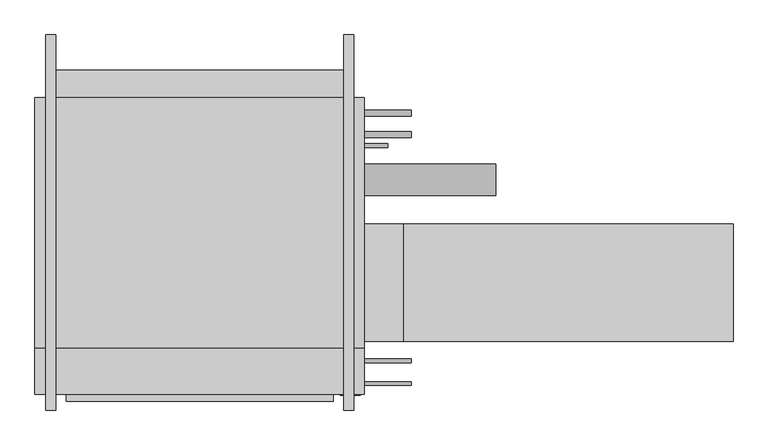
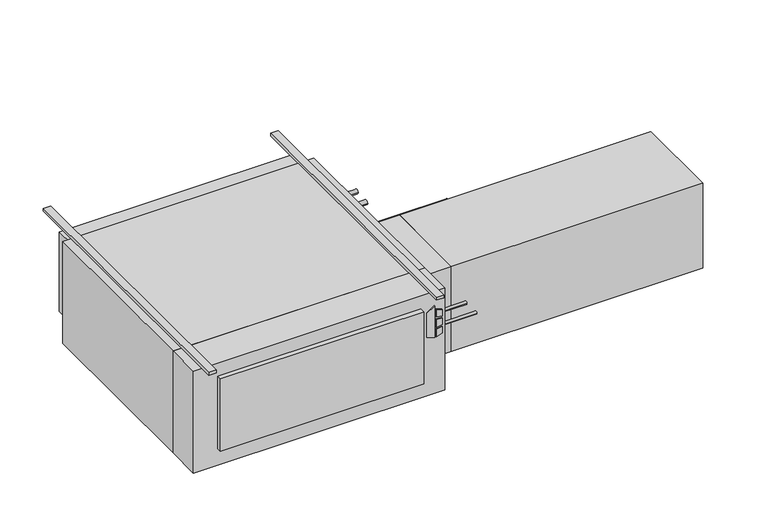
"""IFC4 building model written with IfcOpenShell, lengths in millimetres: proxy geometry."""

from ifc_helpers import new_model, si_unit, point, frame, frame_2d, origin, origin_with_axes, place, context, project, spatial, polyline, circle_curve, trimmed, segment, composite_curve, outline, extrude, source, transform, mapped, element, save


def mechanical_equipment_b82c571a(model_context):
    return source(origin(), model_context, "Body", "SweptSolid", [
        extrude(outline(polyline([(-193.2519297, 608.0868862), (-203.2, 640.2602728), (-61.0290756, 640.2602728), (-84.0510817, 608.0868862), (-193.2519297, 608.0868862)])), frame((0.0, -797.052, 0.0), z_axis=(0.0, 1.0, 0.0), x_axis=(0.0, 0.0, 1.0)), (0.0, 0.0, 1.0), 3.175),
        extrude(outline(polyline([(-114.2526443, 647.0186058), (-117.4550368, 673.1), (-88.2261958, 673.1), (-80.1617807, 647.0186058), (-114.2526443, 647.0186058)])), frame((0.0, -797.052, 0.0), z_axis=(0.0, 1.0, 0.0), x_axis=(0.0, 0.0, 1.0)), (0.0, 0.0, 1.0), 3.175),
        extrude(outline(polyline([(-166.1161712, 673.1), (-169.7816721, 647.0186058), (-203.2, 647.0186058), (-194.5657628, 673.1), (-166.1161712, 673.1)])), frame((0.0, -797.052, 0.0), z_axis=(0.0, 1.0, 0.0), x_axis=(0.0, 0.0, 1.0)), (0.0, 0.0, 1.0), 3.175),
        extrude(outline(polyline([(-126.8010097, 673.1), (-124.5191834, 647.0186058), (-160.4567319, 647.0186058), (-157.7154669, 673.1), (-126.8010097, 673.1)])), frame((0.0, -797.052, 0.0), z_axis=(0.0, 1.0, 0.0), x_axis=(0.0, 0.0, 1.0)), (0.0, 0.0, 1.0), 3.175),
        extrude(outline(polyline([(685.8, -793.877), (-381.0, -793.877), (-381.0, -644.525), (685.8, -644.525), (685.8, -793.877)])), frame((0.0, 0.0, -457.2), z_axis=(0.0, 0.0, 1.0), x_axis=(1.0, 0.0, 0.0)), (0.0, 0.0, 1.0), 457.2),
        extrude(outline(polyline([(584.2, -816.229), (-279.4, -816.229), (-279.4, -793.877), (584.2, -793.877), (584.2, -816.229)])), frame((0.0, 0.0, -381.0), z_axis=(0.0, 0.0, 1.0), x_axis=(1.0, 0.0, 0.0)), (0.0, 0.0, 1.0), 323.85),
        extrude(outline(polyline([(1879.6, -241.3), (1879.6, -622.3), (812.8, -622.3), (812.8, -241.3), (1879.6, -241.3)])), frame((0.0, 0.0, -431.8), z_axis=(0.0, 0.0, 1.0), x_axis=(1.0, 0.0, 0.0)), (0.0, 0.0, 1.0), 381.0),
        extrude(outline(polyline([(812.8, -241.3), (812.8, -622.3), (685.8, -622.3), (685.8, -241.3), (812.8, -241.3)])), frame((0.0, 0.0, -431.8), z_axis=(0.0, 0.0, 1.0), x_axis=(1.0, 0.0, 0.0)), (0.0, 0.0, 1.0), 381.0),
        extrude(outline(composite_curve([segment(trimmed(circle_curve(frame_2d((-758.825, -184.15)), 6.35), [point((-752.475, -184.15))], [point((-765.175, -184.15))], False, "CARTESIAN"), True, "CONTINUOUS"), segment(trimmed(circle_curve(frame_2d((-758.825, -184.15)), 6.35), [point((-765.175, -184.15))], [point((-752.475, -184.15))], False, "CARTESIAN"), True, "CONTINUOUS")], self_intersect=False)), frame((685.8, 0.0, 0.0), z_axis=(1.0, 0.0, 0.0), x_axis=(0.0, 1.0, 0.0)), (0.0, 0.0, 1.0), 152.4),
        extrude(outline(composite_curve([segment(trimmed(circle_curve(frame_2d((-685.8, -184.15)), 6.35), [point((-679.45, -184.15))], [point((-692.15, -184.15))], False, "CARTESIAN"), True, "CONTINUOUS"), segment(trimmed(circle_curve(frame_2d((-685.8, -184.15)), 6.35), [point((-692.15, -184.15))], [point((-679.45, -184.15))], False, "CARTESIAN"), True, "CONTINUOUS")], self_intersect=False)), frame((685.8, 0.0, 0.0), z_axis=(1.0, 0.0, 0.0), x_axis=(0.0, 1.0, 0.0)), (0.0, 0.0, 1.0), 152.4),
        extrude(outline(composite_curve([segment(trimmed(circle_curve(frame_2d((117.475, -171.45)), 9.525), [point((127.0, -171.45))], [point((107.95, -171.45))], False, "CARTESIAN"), True, "CONTINUOUS"), segment(trimmed(circle_curve(frame_2d((117.475, -171.45)), 9.525), [point((107.95, -171.45))], [point((127.0, -171.45))], False, "CARTESIAN"), True, "CONTINUOUS")], self_intersect=False)), frame((685.8, 0.0, 0.0), z_axis=(1.0, 0.0, 0.0), x_axis=(0.0, 1.0, 0.0)), (0.0, 0.0, 1.0), 152.4),
        extrude(outline(composite_curve([segment(trimmed(circle_curve(frame_2d((47.625, -177.8)), 9.525), [point((57.15, -177.8))], [point((38.1, -177.8))], False, "CARTESIAN"), True, "CONTINUOUS"), segment(trimmed(circle_curve(frame_2d((47.625, -177.8)), 9.525), [point((38.1, -177.8))], [point((57.15, -177.8))], False, "CARTESIAN"), True, "CONTINUOUS")], self_intersect=False)), frame((685.8, 0.0, 0.0), z_axis=(1.0, 0.0, 0.0), x_axis=(0.0, 1.0, 0.0)), (0.0, 0.0, 1.0), 152.4),
        extrude(outline(composite_curve([segment(trimmed(circle_curve(frame_2d((-98.4896516, -228.6360165)), 50.8), [point((-47.6896516, -228.6360165))], [point((-149.2896516, -228.6360165))], False, "CARTESIAN"), True, "CONTINUOUS"), segment(trimmed(circle_curve(frame_2d((-98.4896516, -228.6360165)), 50.8), [point((-149.2896516, -228.6360165))], [point((-47.6896516, -228.6360165))], False, "CARTESIAN"), True, "CONTINUOUS")], self_intersect=False)), frame((685.8, 0.0, 0.0), z_axis=(1.0, 0.0, 0.0), x_axis=(0.0, 1.0, 0.0)), (0.0, 0.0, 1.0), 425.45),
        extrude(outline(composite_curve([segment(trimmed(circle_curve(frame_2d((12.7, -409.575)), 6.35), [point((19.05, -409.575))], [point((6.35, -409.575))], False, "CARTESIAN"), True, "CONTINUOUS"), segment(trimmed(circle_curve(frame_2d((12.7, -409.575)), 6.35), [point((6.35, -409.575))], [point((19.05, -409.575))], False, "CARTESIAN"), True, "CONTINUOUS")], self_intersect=False)), frame((685.8, 0.0, 0.0), z_axis=(1.0, 0.0, 0.0), x_axis=(0.0, 1.0, 0.0)), (0.0, 0.0, 1.0), 76.2),
        extrude(outline(polyline([(685.8, 168.275), (685.8, -644.525), (-381.0, -644.525), (-381.0, 168.275), (685.8, 168.275)])), frame((0.0, 0.0, -457.2), z_axis=(0.0, 0.0, 1.0), x_axis=(1.0, 0.0, 0.0)), (0.0, 0.0, 1.0), 457.2),
        extrude(outline(polyline([(-342.9, 257.175), (647.7, 257.175), (647.7, 168.275), (-342.9, 168.275), (-342.9, 257.175)])), frame((0.0, 0.0, -381.0), z_axis=(0.0, 0.0, 1.0), x_axis=(1.0, 0.0, 0.0)), (0.0, 0.0, 1.0), 355.6),
        extrude(outline(polyline([(-314.325, 371.475), (-314.325, -844.677), (-346.075, -844.677), (-346.075, 371.475), (-314.325, 371.475)])), origin_with_axes(), (0.0, 0.0, 1.0), 12.7),
        extrude(outline(polyline([(650.875, 371.475), (650.875, -844.677), (619.125, -844.677), (619.125, 371.475), (650.875, 371.475)])), origin_with_axes(), (0.0, 0.0, 1.0), 12.7),
    ])


if __name__ == "__main__":
    model = new_model("IFC4")
    model_context = context("Model", 3, world=origin())
    ifc_project = project(units=[si_unit("LENGTHUNIT", "METRE", prefix="MILLI")], contexts=[model_context])
    site = spatial("IfcSite", under=ifc_project)
    building = spatial("IfcBuilding", under=site)
    placement = place(None, origin())
    mechanical_equipment_shape = mechanical_equipment_b82c571a(model_context)
    element("IfcBuildingElementProxy", 1, Name="High_Capacity_Horizontal_Cabinet_Fan_Coil_Unit_-_HTY_-_IEC_-_4-Pipe_WO-Attenuator_RH Side_2022 : Size 14 - 115v/60Hz/1Ph - 4/1 Coil - 4\" AirIn", ObjectType="High_Capacity_Horizontal_Cabinet_Fan_Coil_Unit_-_HTY_-_IEC_-_4-Pipe_WO-Attenuator_RH Side_2022 : Size 14 - 115v/60Hz/1Ph - 4/1 Coil - 4\" AirIn", at=placement, inside=building, context=model_context, shape_type="MappedRepresentation", body=[
        mapped(mechanical_equipment_shape, transform((0.0, 0.0, 0.0), x_axis=(1.0, 0.0, 0.0), y_axis=(0.0, 1.0, 0.0), z_axis=(0.0, 0.0, 1.0))),
    ])
    save(model, "model.ifc")
